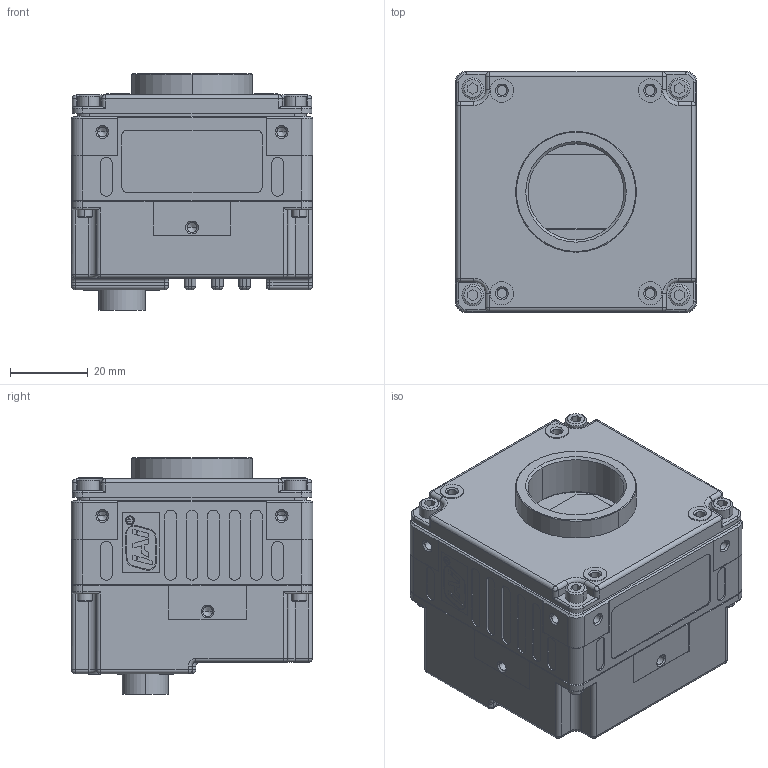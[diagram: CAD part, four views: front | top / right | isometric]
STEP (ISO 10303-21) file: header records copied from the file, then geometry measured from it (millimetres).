
FILE_DESCRIPTION(('OneSpaceDesigner STEP Export'),'2;1');
FILE_NAME('EL-2800M-USB.stp','2013-07-09T11:13:03',(''),(''),'OneSpace Designer STEP processor for AP214 (Solid Model)','OneSpace Modeling 15.00A 14-Mar-2007 (C) CoCreate Software GmbH','');
FILE_SCHEMA(('AUTOMOTIVE_DESIGN { 1 0 10303 214 1 1 1 1 }'));
Products named in the file (2): EL-2800M-USB
Assembly tree (1 placements, depth 2):
  EL-2800M-USB
    EL-2800M-USB
Bounding box: 62 x 62 x 60.8 mm (x, y, z)
Volume: 61808 mm3; surface area: 54312.5 mm2
Topology: 1 solids, 24 shells, 3614 faces, 9725 edges, 6247 vertices
Faces by surface type: plane 2350, cylinder 929, cone 240, torus 46, sphere 43, bspline 4, extrusion 2
Entity records: 114247 total; most frequent: CARTESIAN_POINT 22448, ORIENTED_EDGE 19264, DIRECTION 16433, EDGE_CURVE 9632, VECTOR 7145, LINE 7143, VERTEX_POINT 6247, AXIS2_PLACEMENT_3D 4644
